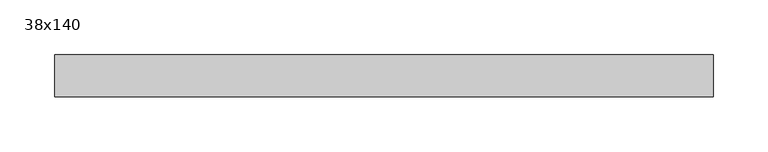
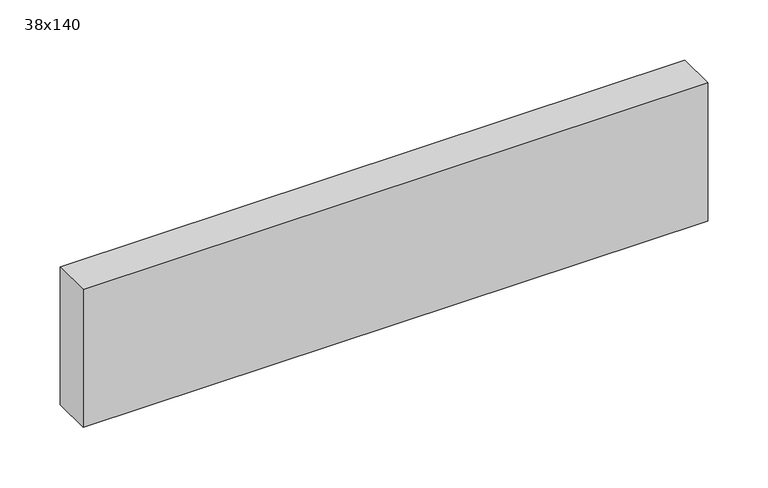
"""IFC4 building model written with IfcOpenShell, lengths in millimetres: beam geometry, Graded Timber : 38x140."""

import ifcopenshell
import ifcopenshell.guid

model = None  # the IFC model being written
_history = None  # IfcOwnerHistory: only IFC2X3 demands one
_inside = {}  # id of a spatial element -> (the spatial element, [elements in it])
_under = {}  # id of a project, library or spatial element -> (it, [spatial elements below it])
_declared = {}  # id of a project -> (the project, [libraries it declares])
_typed = {}  # id of a type object -> (the type object, [elements of that type])
_made_of = {}  # id of a material, layer set ... -> (it, [elements and type objects made of it])


def new_model(schema):
    """Start an empty IFC model of exactly this schema.

    Asked for "IFC4X3", IfcOpenShell would pick the latest addendum, in which some entities
    have other attributes; the version numbers below select the first issue.
    IFC2X3 requires an IfcOwnerHistory on every rooted entity: one is made here for all.
    """
    global model, _history
    if schema == "IFC4X3":
        model = ifcopenshell.file(schema_version=(4, 3, 0, 0))
    else:
        model = ifcopenshell.file(schema=schema)
    _inside.clear()
    _under.clear()
    _declared.clear()
    _typed.clear()
    _made_of.clear()
    _history = None
    if model.schema == "IFC2X3":
        org = make("IfcOrganization", Name="unknown")
        user = make(
            "IfcPersonAndOrganization",
            ThePerson=make("IfcPerson", FamilyName="unknown"),
            TheOrganization=org,
        )
        app = make(
            "IfcApplication",
            ApplicationDeveloper=org,
            Version="unknown",
            ApplicationFullName="unknown",
            ApplicationIdentifier="unknown",
        )
        _history = make(
            "IfcOwnerHistory",
            OwningUser=user,
            OwningApplication=app,
            ChangeAction="ADDED",
            CreationDate=0,
        )
    return model


def make(cls, **values):
    """One entity of the class cls with the attributes given. An attribute that is None is left unset."""
    return model.create_entity(
        cls, **{name: value for name, value in values.items() if value is not None}
    )


def rooted(cls, **values):
    """An entity with a GlobalId (a new one), such as an element, a storey or a relation."""
    return make(cls, GlobalId=ifcopenshell.guid.new(), OwnerHistory=_history, **values)


def si_unit(unit_type, name, prefix=None):
    """IfcSIUnit, for example si_unit("LENGTHUNIT", "METRE", prefix="MILLI")."""
    return make("IfcSIUnit", UnitType=unit_type, Prefix=prefix, Name=name)


def assignment(units):
    """IfcUnitAssignment: the units of a project."""
    return None if units is None else make("IfcUnitAssignment", Units=units)


def point(xyz):
    """IfcCartesianPoint."""
    return None if xyz is None else make("IfcCartesianPoint", Coordinates=xyz)


def direction(xyz):
    """IfcDirection."""
    return None if xyz is None else make("IfcDirection", DirectionRatios=xyz)


def frame(location, z_axis=None, x_axis=None):
    """IfcAxis2Placement3D, a coordinate frame: its origin and axes. An axis left out is left unset."""
    return make(
        "IfcAxis2Placement3D",
        Location=point(location),
        Axis=direction(z_axis),
        RefDirection=direction(x_axis),
    )


def origin():
    """The frame at (0, 0, 0) with its axes left unset."""
    return frame((0.0, 0.0, 0.0))


def place(relative_to, where):
    """IfcLocalPlacement: puts the frame where relative to a parent placement (None: the world)."""
    return make(
        "IfcLocalPlacement", PlacementRelTo=relative_to, RelativePlacement=where
    )


def context(
    kind, dimensions, precision=None, world=None, true_north=None, identifier=None
):
    """IfcGeometricRepresentationContext, for example the 3D "Model" context."""
    return make(
        "IfcGeometricRepresentationContext",
        ContextIdentifier=identifier,
        ContextType=kind,
        CoordinateSpaceDimension=dimensions,
        Precision=precision,
        WorldCoordinateSystem=world,
        TrueNorth=true_north,
    )


def project(units=None, contexts=None):
    """IfcProject with its units and contexts."""
    return rooted(
        "IfcProject",
        Name="project",
        RepresentationContexts=contexts,
        UnitsInContext=assignment(units),
    )


def spatial(cls, under=None, at=None, **own):
    """A site, building, storey or space (cls), placed at a placement, below another one or the project."""
    s = rooted(cls, ObjectPlacement=at, **own)
    if under is not None:
        _under.setdefault(under.id(), (under, []))[1].append(s)
    return s


def polyline(points):
    """IfcPolyline through the points."""
    return make("IfcPolyline", Points=[point(p) for p in points])


def outline(outer, holes=None, kind="AREA"):
    """IfcArbitraryClosedProfileDef: a profile drawn as a closed curve; with holes, ...WithVoids."""
    if holes is None:
        return make("IfcArbitraryClosedProfileDef", ProfileType=kind, OuterCurve=outer)
    return make(
        "IfcArbitraryProfileDefWithVoids",
        ProfileType=kind,
        OuterCurve=outer,
        InnerCurves=holes,
    )


def extrude(swept, where, along, depth):
    """IfcExtrudedAreaSolid: the profile swept, set in the frame where, extruded along a direction by depth."""
    return make(
        "IfcExtrudedAreaSolid",
        SweptArea=swept,
        Position=where,
        ExtrudedDirection=direction(along),
        Depth=depth,
    )


def shape(context_of_items, identifier, shape_type, items):
    """IfcShapeRepresentation: the items that make up one representation, for example the "Body"."""
    return make(
        "IfcShapeRepresentation",
        ContextOfItems=context_of_items,
        RepresentationIdentifier=identifier,
        RepresentationType=shape_type,
        Items=items,
    )


def source(mapping_origin, context_of_items, identifier, shape_type, items):
    """IfcRepresentationMap: a shape defined once, which mapped items show again and again."""
    return make(
        "IfcRepresentationMap",
        MappingOrigin=mapping_origin,
        MappedRepresentation=shape(context_of_items, identifier, shape_type, items),
    )


def transform(
    local_origin,
    x_axis=None,
    y_axis=None,
    z_axis=None,
    scale=None,
    scale2=None,
    scale3=None,
    uniform=True,
):
    """IfcCartesianTransformationOperator3D, or its non-uniform kind. x_axis, y_axis, z_axis: its Axis1, 2, 3."""
    if uniform:
        return make(
            "IfcCartesianTransformationOperator3D",
            Axis1=direction(x_axis),
            Axis2=direction(y_axis),
            LocalOrigin=point(local_origin),
            Scale=scale,
            Axis3=direction(z_axis),
        )
    return make(
        "IfcCartesianTransformationOperator3DnonUniform",
        Axis1=direction(x_axis),
        Axis2=direction(y_axis),
        LocalOrigin=point(local_origin),
        Scale=scale,
        Axis3=direction(z_axis),
        Scale2=scale2,
        Scale3=scale3,
    )


def mapped(mapping_source, mapping_target):
    """IfcMappedItem: shows the shape of a source again, moved by a transform."""
    return make(
        "IfcMappedItem", MappingSource=mapping_source, MappingTarget=mapping_target
    )


def made_of(thing, what):
    """Note that an element or type object is made of a material, layer set ...; save() writes the relation."""
    if what is not None:
        _made_of.setdefault(what.id(), (what, []))[1].append(thing)
    return thing


def element(
    cls,
    number,
    at=None,
    inside=None,
    cuts=None,
    type_object=None,
    material=None,
    context=None,
    identifier="Body",
    shape_type=None,
    held_by="IfcProductDefinitionShape",
    body=None,
    shapes=None,
    **own,
):
    """One element of the class cls, such as IfcWall. Its Tag is "e" and its number.

    at: its placement. inside: the storey or other place that contains it. cuts: it is an
    opening in that element (IfcRelVoidsElement). A single representation is given by context,
    identifier, shape_type and body (its items); several are given by shapes. held_by: the class
    of the entity that holds the representations. save() writes the other relations.
    """
    e = rooted(cls, Tag="e%d" % number, ObjectPlacement=at, **own)
    if body is not None:
        shapes = [shape(context, identifier, shape_type, body)]
    if shapes is not None:
        e.Representation = make(held_by, Representations=shapes)
    if inside is not None:
        _inside.setdefault(inside.id(), (inside, []))[1].append(e)
    if cuts is not None:
        rooted(
            "IfcRelVoidsElement", RelatingBuildingElement=cuts, RelatedOpeningElement=e
        )
    if type_object is not None:
        _typed.setdefault(type_object.id(), (type_object, []))[1].append(e)
    return made_of(e, material)


def aggregate(whole, parts):
    """IfcRelAggregates: a whole, such as a stair, and the parts it consists of."""
    return rooted("IfcRelAggregates", RelatingObject=whole, RelatedObjects=parts)


def save(model, path):
    """Write the relations noted so far, then the file.

    IfcRelAggregates (storeys below a building ...), IfcRelContainedInSpatialStructure (elements
    in a storey), IfcRelDefinesByType, IfcRelAssociatesMaterial and IfcRelDeclares: one each for
    every whole, place, type object, material and project.
    """
    for whole, parts in _under.values():
        aggregate(whole, parts)
    for where, things in _inside.values():
        rooted(
            "IfcRelContainedInSpatialStructure",
            RelatedElements=things,
            RelatingStructure=where,
        )
    for kind, things in _typed.values():
        rooted("IfcRelDefinesByType", RelatedObjects=things, RelatingType=kind)
    for what, things in _made_of.values():
        rooted("IfcRelAssociatesMaterial", RelatedObjects=things, RelatingMaterial=what)
    for by, libraries in _declared.values():
        rooted("IfcRelDeclares", RelatingContext=by, RelatedDefinitions=libraries)
    model.write(path)


def beam_38x140_a258f91f(model_context):
    return source(origin(), model_context, "Body", "SweptSolid", [
        extrude(outline(polyline([(365.6019068, 19.0), (365.6019068, -19.0), (-233.5, -19.0), (-233.5, 19.0), (365.6019068, 19.0)])), frame((0.0, 0.0, -70.0), z_axis=(0.0, 0.0, 1.0), x_axis=(1.0, 0.0, 0.0)), (0.0, 0.0, 1.0), 140.0),
    ])


if __name__ == "__main__":
    model = new_model("IFC4")
    model_context = context("Model", 3, world=origin())
    ifc_project = project(units=[si_unit("LENGTHUNIT", "METRE", prefix="MILLI")], contexts=[model_context])
    site = spatial("IfcSite", under=ifc_project)
    building = spatial("IfcBuilding", under=site)
    placement = place(None, origin())
    beam_38x140_shape = beam_38x140_a258f91f(model_context)
    element("IfcBeam", 1, ObjectType="Graded Timber : 38x140", at=placement, inside=building, context=model_context, shape_type="MappedRepresentation", body=[
        mapped(beam_38x140_shape, transform((0.0, 0.0, 0.0), x_axis=(1.0, 0.0, 0.0), y_axis=(0.0, 1.0, 0.0), z_axis=(0.0, 0.0, 1.0))),
    ])
    save(model, "model.ifc")
